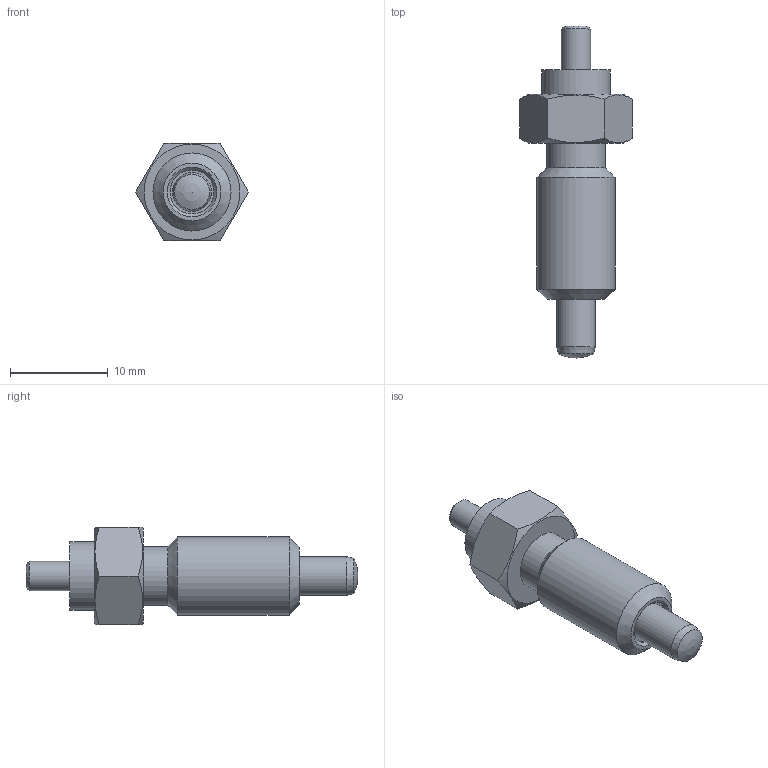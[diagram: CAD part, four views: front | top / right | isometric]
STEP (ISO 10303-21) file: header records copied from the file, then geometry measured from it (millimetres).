
FILE_DESCRIPTION( ( 'STEP AP203' ), '1' );
FILE_NAME( 'C:/Temp/Ganter_Step_05_03_2020/data/3_1/gn817/gn817_ni-rastbolzen/Stainless steel-Indexing plunger GN 817-4-6-G-NI (deactivated).stp', '2020-03-12T08:59:44', ( 'License CC BY-ND 4.0' ), ( 'CADENAS' ), ' ', 'PARTsolutions', ' ' );
FILE_SCHEMA( ( 'CONFIG_CONTROL_DESIGN' ) );
Length unit declared in the file: millimetre
Products named in the file (4): Stainless steel-Indexing plunger GN 817-4-6-G-NI (deactivated); _Stainless steel-Indexing plunger GN 817-4-6-G-NI (deactivated)-d2; _Stainless steel-Indexing plunger GN 817-4-6-B-NI-2; _Stainless Steel-Indexing plunger GN 817-4-6-G-NI-6
Assembly tree (3 placements, depth 2):
  Stainless steel-Indexing plunger GN 817-4-6-G-NI (deactivated)
    _Stainless steel-Indexing plunger GN 817-4-6-G-NI (deactivated)-d2
    _Stainless steel-Indexing plunger GN 817-4-6-B-NI-2
    _Stainless Steel-Indexing plunger GN 817-4-6-G-NI-6
Bounding box: 11.55 x 34 x 10 mm (x, y, z)
Volume: 1296.9 mm3; surface area: 1499.6 mm2
Topology: 2 solids, 2 shells, 35 faces, 67 edges, 42 vertices
Faces by surface type: plane 15, cylinder 9, cone 8, torus 2, sphere 1
Full cylindrical faces by diameter (mm): 3 x3, 4 x1, 4.5 x2, 6 x1, 7 x1, 8 x1
Entity records: 995 total; most frequent: CARTESIAN_POINT 233, DIRECTION 138, ORIENTED_EDGE 90, AXIS2_PLACEMENT_3D 66, EDGE_LOOP 62, FACE_OUTER_BOUND 46, EDGE_CURVE 45, VERTEX_POINT 40
